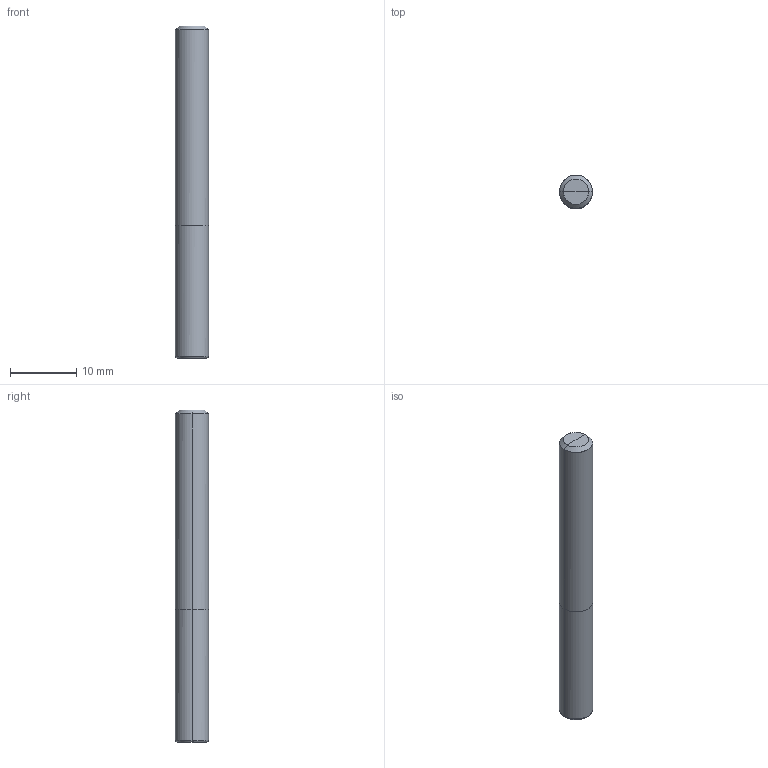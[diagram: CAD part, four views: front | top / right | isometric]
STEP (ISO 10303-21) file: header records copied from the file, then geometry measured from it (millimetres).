
FILE_DESCRIPTION(/* description */ (''),/* implementation_level */ '2;1');
FILE_NAME(/*name*/ '2041-5-0.25R',/*time_stamp*/'2021-3-24T15:6:1',/*author*/ ('ISBE GmbH'),/*organization*/ ('ISBE GmbH'),/*preprocessor_version*/ 'STEP IO v1.0',/*originating_system*/ '',/*authorisation*/ '');
FILE_SCHEMA (('AUTOMOTIVE_DESIGN'));
Length unit declared in the file: millimetre
Products named in the file (1): Document
Bounding box: 5 x 5 x 50 mm (x, y, z)
Surface area: 857.4 mm2 (no closed solid volume)
Topology: 0 solids, 16 shells, 16 faces, 66 edges, 60 vertices
Faces by surface type: bspline 16
Entity records: 967 total; most frequent: CARTESIAN_POINT 672, VERTEX_POINT 56, EDGE_CURVE 56, ORIENTED_EDGE 56, DIRECTION 16, EDGE_LOOP 16, FACE_OUTER_BOUND 16, ADVANCED_FACE 16
